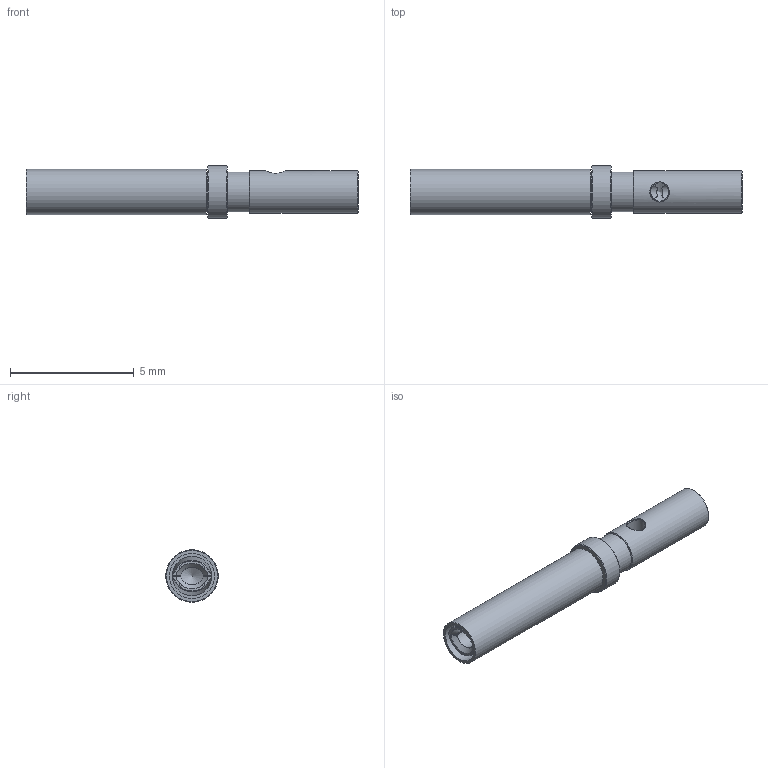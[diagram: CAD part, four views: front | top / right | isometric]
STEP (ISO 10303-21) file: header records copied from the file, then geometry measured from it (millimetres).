
FILE_DESCRIPTION(/* description */ ('Alibre Inc.'),/* implementation_level */ '2;1');
FILE_NAME(/* name */ 'export0',/* time_stamp */ '2014-09-04T13:42:24-07:00',/* author */ (''),/* organization */ (''),/* preprocessor_version */ 'ST-DEVELOPER v14',/* originating_system */ 'Alibre',/* authorisation */ '');
FILE_SCHEMA (('CONFIG_CONTROL_DESIGN'));
Length unit declared in the file: centimetre
Products named in the file (1): ID_1
Bounding box: 13.41 x 2.12 x 2.12 mm (x, y, z)
Volume: 25.6 mm3; surface area: 167.4 mm2
Topology: 1 solids, 1 shells, 65 faces, 164 edges, 99 vertices
Faces by surface type: plane 22, cylinder 18, cone 10, torus 6, bspline 5, sphere 4
Full cylindrical faces by diameter (mm): 0.635 x2, 0.737 x1, 1.016 x1, 1.6 x3, 1.702 x1, 1.829 x1, 2.121 x1
Entity records: 3078 total; most frequent: CARTESIAN_POINT 1697, ORIENTED_EDGE 256, DIRECTION 238, EDGE_CURVE 128, AXIS2_PLACEMENT_3D 112, FACE_BOUND 90, VERTEX_POINT 88, EDGE_LOOP 87
